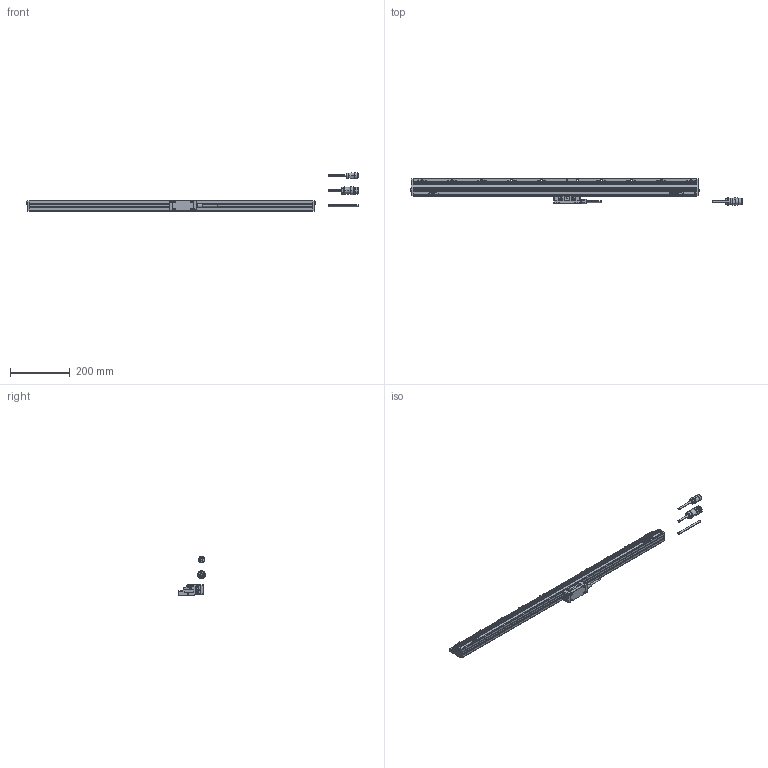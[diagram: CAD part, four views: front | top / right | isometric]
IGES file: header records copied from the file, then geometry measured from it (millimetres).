
Start section: Elysium IGES Interface
Global section: file name: 65H\\Utsu119s\kiyo_cad\data\3D\AT402E\HP掲載用_201708\AT402E-840.igs; native system: Creo Elements/Direct Modeling 18.1B  29-Sep-2012; preprocessor: Creo Element/Direct IGES_3D V2.2; author: Unknown; organization: Unknown; date: 20180221.115530; units: millimetre
Bounding box: 1109.63 x 90 x 130.25 mm (x, y, z)
Volume: 1655661.6 mm3; surface area: 224299.2 mm2
Topology: 5 solids, 5 shells, 1195 faces, 3432 edges, 2323 vertices
Faces by surface type: bspline 1195
